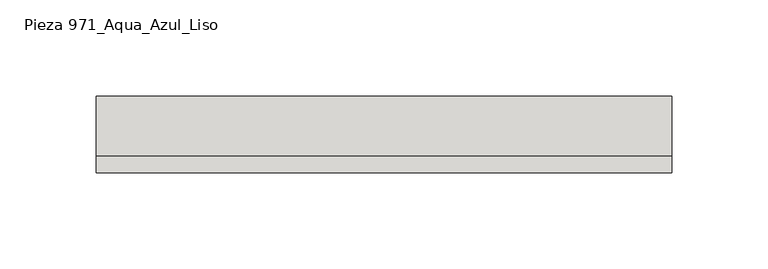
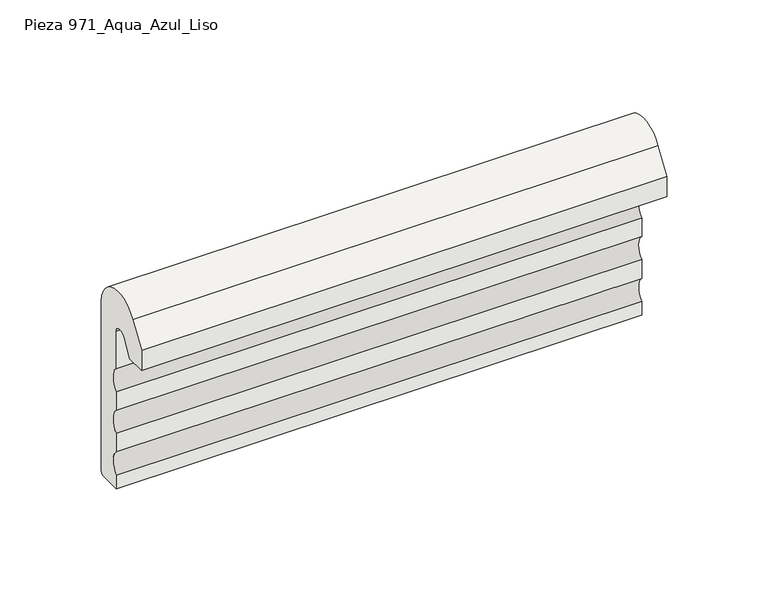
"""IFC4 building model written with IfcOpenShell, lengths in millimetres: slab geometry, ROSA GRES_971 : Pieza 971_Aqua_Azul_Liso."""

from ifc_helpers import new_model, si_unit, point, frame, frame_2d, origin, place, context, project, spatial, polyline, circle_curve, trimmed, segment, composite_curve, outline, extrude, source, transform, mapped, element, save


def pieza_971_aqua_azul_liso_acb72ac2(model_context):
    return source(origin(), model_context, "Body", "SweptSolid", [
        extrude(outline(composite_curve([segment(trimmed(circle_curve(frame_2d((-16.8529233, 144.6319512)), 16.9196478), [point((-31.1851409, 153.6242825))], [point((0.0, 146.1331033))], False, "CARTESIAN"), True, "CONTINUOUS"), segment(polyline([(0.0, 146.1331033), (0.0, 44.0250913)]), True, "CONTINUOUS"), segment(trimmed(circle_curve(frame_2d((-2.68, 44.0250913)), 2.68), [point((0.0, 44.0250913))], [point((-2.68, 41.3450913))], False, "CARTESIAN"), True, "CONTINUOUS"), segment(polyline([(-2.68, 41.3450913), (-15.0062809, 41.3450913), (-15.0062809, 49.6275439)]), True, "CONTINUOUS"), segment(trimmed(circle_curve(frame_2d((-21.3959123, 56.5905141)), 9.450415), [point((-15.0062809, 49.6275439))], [point((-14.9614723, 63.5120982))], True, "CARTESIAN"), True, "CONTINUOUS"), segment(polyline([(-14.9614723, 63.5120982), (-14.9614723, 74.8171516)]), True, "CONTINUOUS"), segment(trimmed(circle_curve(frame_2d((-21.3511036, 81.7801218)), 9.450415), [point((-14.9614723, 74.8171516))], [point((-14.9166636, 88.7017059))], True, "CARTESIAN"), True, "CONTINUOUS"), segment(polyline([(-14.9166636, 88.7017059), (-14.9166636, 100.0067593)]), True, "CONTINUOUS"), segment(trimmed(circle_curve(frame_2d((-21.3613471, 107.0507801)), 9.5473648), [point((-14.9166636, 100.0067593))], [point((-14.3481673, 113.5290116))], True, "CARTESIAN"), True, "CONTINUOUS"), segment(polyline([(-14.3481673, 113.5290116), (-14.3481673, 136.0931579)]), True, "CONTINUOUS"), segment(trimmed(circle_curve(frame_2d((-18.761148, 135.3324983)), 4.4780578), [point((-14.3481673, 136.0931579))], [point((-22.7114874, 137.4414839))], True, "CARTESIAN"), True, "CONTINUOUS"), segment(polyline([(-22.7114874, 137.4414839), (-28.5599154, 128.1510212), (-39.9975962, 128.1510212), (-39.9975962, 139.9882747), (-31.1851409, 153.6242825)]), True, "CONTINUOUS")], self_intersect=False)), frame((0.0, 0.0, 0.0), z_axis=(1.0, 0.0, 0.0), x_axis=(0.0, 1.0, 0.0)), (0.0, 0.0, 1.0), 299.9692214),
    ])


if __name__ == "__main__":
    model = new_model("IFC4")
    model_context = context("Model", 3, world=origin())
    ifc_project = project(units=[si_unit("LENGTHUNIT", "METRE", prefix="MILLI")], contexts=[model_context])
    site = spatial("IfcSite", under=ifc_project)
    building = spatial("IfcBuilding", under=site)
    placement = place(None, origin())
    pieza_971_aqua_azul_liso_shape = pieza_971_aqua_azul_liso_acb72ac2(model_context)
    element("IfcSlab", 1, ObjectType="ROSA GRES_971 : Pieza 971_Aqua_Azul_Liso", at=placement, inside=building, context=model_context, shape_type="MappedRepresentation", body=[
        mapped(pieza_971_aqua_azul_liso_shape, transform((0.0, 0.0, 0.0), x_axis=(1.0, 0.0, 0.0), y_axis=(0.0, 1.0, 0.0), z_axis=(0.0, 0.0, 1.0))),
    ])
    save(model, "model.ifc")
